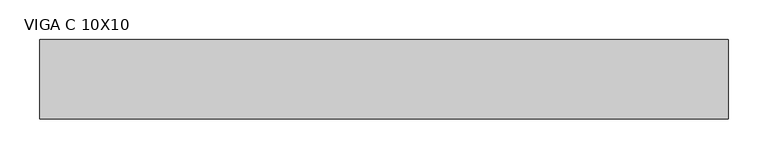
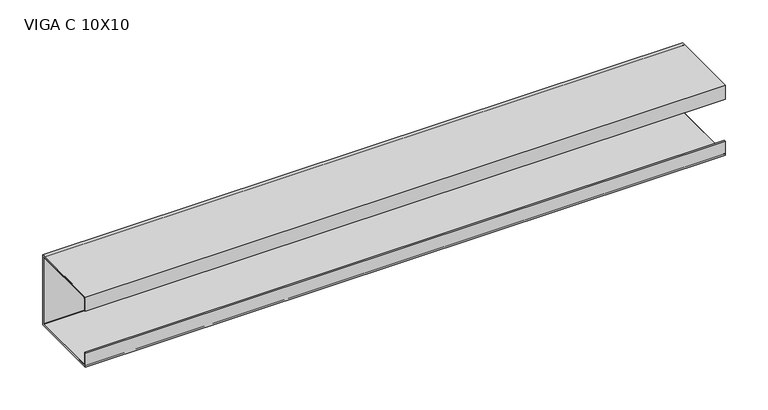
"""IFC4 building model written with IfcOpenShell, lengths in millimetres: beam geometry, VIGA PERFIL C AÇO : VIGA C 10X10."""

from ifc_helpers import new_model, si_unit, point, frame, frame_2d, origin, place, context, project, spatial, polyline, circle_curve, trimmed, segment, composite_curve, outline, extrude, source, transform, mapped, element, save


def viga_c_10x10_9ffc08ec(model_context):
    return source(origin(), model_context, "Body", "SweptSolid", [
        extrude(outline(polyline([(9.2, -50.0), (-90.8, -50.0), (-90.8, -30.0), (-88.9, -30.0), (-88.9, -48.1), (7.3, -48.1), (7.3, 48.1), (-88.9, 48.1), (-88.9, 30.0), (-90.8, 30.0), (-90.8, 50.0), (9.2, 50.0), (9.2, -50.0)])), frame((-433.5, 0.0, 0.0), z_axis=(1.0, 0.0, 0.0), x_axis=(0.0, 1.0, 0.0)), (0.0, 0.0, 1.0), 865.0),
        extrude(outline(composite_curve([segment(trimmed(circle_curve(frame_2d((5.4, -46.2)), 3.8), [point((9.2, -46.2))], [point((5.4, -50.0))], False, "CARTESIAN"), True, "CONTINUOUS"), segment(polyline([(5.4, -50.0), (-87.0, -50.0)]), True, "CONTINUOUS"), segment(trimmed(circle_curve(frame_2d((-87.0, -46.2)), 3.8), [point((-87.0, -50.0))], [point((-90.8, -46.2))], False, "CARTESIAN"), True, "CONTINUOUS"), segment(polyline([(-90.8, -46.2), (-90.8, -30.0), (-88.9, -30.0), (-88.9, -46.2)]), True, "CONTINUOUS"), segment(trimmed(circle_curve(frame_2d((-87.0, -46.2)), 1.9), [point((-88.9, -46.2))], [point((-87.0, -48.1))], True, "CARTESIAN"), True, "CONTINUOUS"), segment(polyline([(-87.0, -48.1), (5.4, -48.1)]), True, "CONTINUOUS"), segment(trimmed(circle_curve(frame_2d((5.4, -46.2)), 1.9), [point((5.4, -48.1))], [point((7.3, -46.2))], True, "CARTESIAN"), True, "CONTINUOUS"), segment(polyline([(7.3, -46.2), (7.3, 46.2)]), True, "CONTINUOUS"), segment(trimmed(circle_curve(frame_2d((5.4, 46.2)), 1.9), [point((7.3, 46.2))], [point((5.4, 48.1))], True, "CARTESIAN"), True, "CONTINUOUS"), segment(polyline([(5.4, 48.1), (-87.0, 48.1)]), True, "CONTINUOUS"), segment(trimmed(circle_curve(frame_2d((-87.0, 46.2)), 1.9), [point((-87.0, 48.1))], [point((-88.9, 46.2))], True, "CARTESIAN"), True, "CONTINUOUS"), segment(polyline([(-88.9, 46.2), (-88.9, 30.0), (-90.8, 30.0), (-90.8, 46.2)]), True, "CONTINUOUS"), segment(trimmed(circle_curve(frame_2d((-87.0, 46.2)), 3.8), [point((-90.8, 46.2))], [point((-87.0, 50.0))], False, "CARTESIAN"), True, "CONTINUOUS"), segment(polyline([(-87.0, 50.0), (5.4, 50.0)]), True, "CONTINUOUS"), segment(trimmed(circle_curve(frame_2d((5.4, 46.2)), 3.8), [point((5.4, 50.0))], [point((9.2, 46.2))], False, "CARTESIAN"), True, "CONTINUOUS"), segment(polyline([(9.2, 46.2), (9.2, -46.2)]), True, "CONTINUOUS")], self_intersect=False)), frame((-433.5, 0.0, 0.0), z_axis=(1.0, 0.0, 0.0), x_axis=(0.0, 1.0, 0.0)), (0.0, 0.0, 1.0), 865.0),
    ])


if __name__ == "__main__":
    model = new_model("IFC4")
    model_context = context("Model", 3, world=origin())
    ifc_project = project(units=[si_unit("LENGTHUNIT", "METRE", prefix="MILLI")], contexts=[model_context])
    site = spatial("IfcSite", under=ifc_project)
    building = spatial("IfcBuilding", under=site)
    placement = place(None, origin())
    viga_c_10x10_shape = viga_c_10x10_9ffc08ec(model_context)
    element("IfcBeam", 1, ObjectType="VIGA PERFIL C AÇO : VIGA C 10X10", at=placement, inside=building, context=model_context, shape_type="MappedRepresentation", body=[
        mapped(viga_c_10x10_shape, transform((0.0, 0.0, 0.0), x_axis=(1.0, 0.0, 0.0), y_axis=(0.0, 1.0, 0.0), z_axis=(0.0, 0.0, 1.0))),
    ])
    save(model, "model.ifc")
